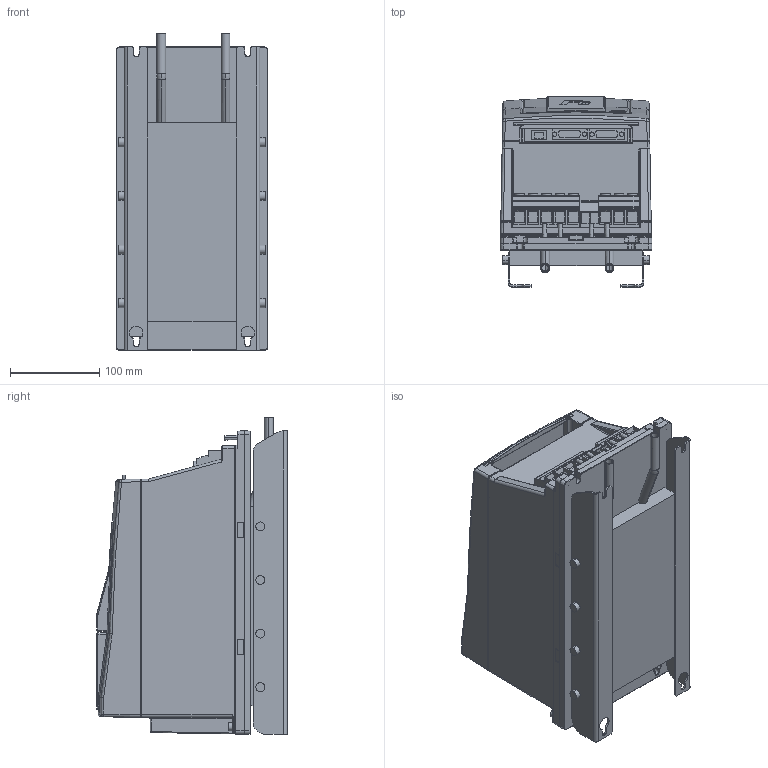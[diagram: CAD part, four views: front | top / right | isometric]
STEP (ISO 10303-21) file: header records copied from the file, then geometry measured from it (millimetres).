
FILE_DESCRIPTION (( 'STEP AP214' ), '1' );
FILE_NAME ('F6-3 TW0-K000.STEP', '2024-08-27T10:00:56', ( '' ), ( '' ), 'SwSTEP 2.0', 'SolidWorks 2022', '' );
FILE_SCHEMA (( 'AUTOMOTIVE_DESIGN' ));
Length unit declared in the file: millimetre
Products named in the file (9): 10035735_000_Kundenmodell; F6-3 TW0-K000; 10040482_000_Kundenmodell; Kundenmodell^10035735_000; 10068344_000_Leistungsteil TR0 (Kundenmodell); Kundenmodell^10059764_000; Kundenmodell^10068344_000; 10059764_000_Blindabdeckung (Kundenmodell); Kundenmodell^10040482_000
Assembly tree (8 placements, depth 4):
  F6-3 TW0-K000
    10068344_000_Leistungsteil TR0 (Kundenmodell)
      Kundenmodell^10068344_000
    10040482_000_Kundenmodell
      Kundenmodell^10040482_000
    10035735_000_Kundenmodell
      10059764_000_Blindabdeckung (Kundenmodell)
        Kundenmodell^10059764_000
      Kundenmodell^10035735_000
Bounding box: 170 x 212.96 x 355 mm (x, y, z)
Volume: 8074121.9 mm3; surface area: 634539.4 mm2
Topology: 11 solids, 20 shells, 2147 faces, 5420 edges, 3353 vertices
Faces by surface type: plane 908, cylinder 667, bspline 330, cone 109, torus 87, sphere 46
Entity records: 71794 total; most frequent: CARTESIAN_POINT 23122, ORIENTED_EDGE 10720, DIRECTION 9263, EDGE_CURVE 5360, VERTEX_POINT 3353, AXIS2_PLACEMENT_3D 3224, LINE 2815, VECTOR 2815
